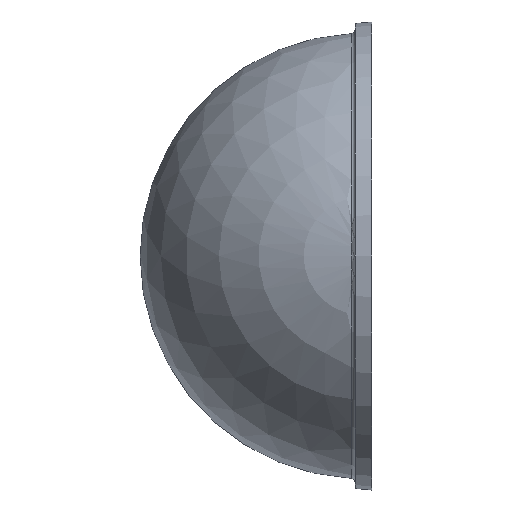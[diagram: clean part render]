
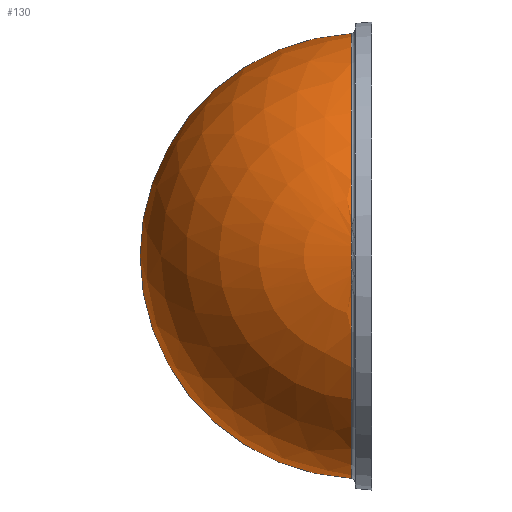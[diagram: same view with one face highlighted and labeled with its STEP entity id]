
A CAD part, left-side view. The second image highlights one B-rep face of the part: STEP entity #130.
In plain terms, the highlighted spherical face has radius 49.802 mm.
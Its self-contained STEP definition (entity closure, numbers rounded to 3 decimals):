
#1 = EDGE_CURVE ( 'NONE', #23, #45, #215, .T. ) ;
#16 = DIRECTION ( 'NONE',  ( 0., 1., 0. ) ) ;
#20 = ORIENTED_EDGE ( 'NONE', *, *, #1, .T. ) ;
#23 = VERTEX_POINT ( 'NONE', #58 ) ;
#28 = DIRECTION ( 'NONE',  ( 0., 0., 1. ) ) ;
#44 = DIRECTION ( 'NONE',  ( 0., 0., 1. ) ) ;
#45 = VERTEX_POINT ( 'NONE', #175 ) ;
#46 = AXIS2_PLACEMENT_3D ( 'NONE', #73, #16, #44 ) ;
#58 = CARTESIAN_POINT ( 'NONE',  ( 0., 4.603, 49.734 ) ) ;
#63 = DIRECTION ( 'NONE',  ( 0., 0., -1. ) ) ;
#65 = AXIS2_PLACEMENT_3D ( 'NONE', #222, #294, #286 ) ;
#73 = CARTESIAN_POINT ( 'NONE',  ( 0., 4.603, 0. ) ) ;
#124 = CARTESIAN_POINT ( 'NONE',  ( 0., 4.603, -49.734 ) ) ;
#125 = ORIENTED_EDGE ( 'NONE', *, *, #348, .F. ) ;
#130 = ADVANCED_FACE ( 'NONE', ( #310 ), #155, .T. ) ;
#155 = SPHERICAL_SURFACE ( 'NONE', #370, 49.802 ) ;
#164 = VERTEX_POINT ( 'NONE', #124 ) ;
#175 = CARTESIAN_POINT ( 'NONE',  ( 0., 51.802, 0. ) ) ;
#176 = CARTESIAN_POINT ( 'NONE',  ( 0., 2., 0. ) ) ;
#203 = CIRCLE ( 'NONE', #65, 49.802 ) ;
#215 = CIRCLE ( 'NONE', #237, 49.802 ) ;
#222 = CARTESIAN_POINT ( 'NONE',  ( 0., 2., 0. ) ) ;
#224 = EDGE_LOOP ( 'NONE', ( #353, #20, #125 ) ) ;
#237 = AXIS2_PLACEMENT_3D ( 'NONE', #176, #238, #28 ) ;
#238 = DIRECTION ( 'NONE',  ( -1., 0., 0. ) ) ;
#250 = CARTESIAN_POINT ( 'NONE',  ( 0., 2., 0. ) ) ;
#286 = DIRECTION ( 'NONE',  ( 0., 0., -1. ) ) ;
#294 = DIRECTION ( 'NONE',  ( 1., 0., 0. ) ) ;
#304 = CIRCLE ( 'NONE', #46, 49.734 ) ;
#310 = FACE_OUTER_BOUND ( 'NONE', #224, .T. ) ;
#340 = DIRECTION ( 'NONE',  ( -1., 0., 0. ) ) ;
#348 = EDGE_CURVE ( 'NONE', #164, #45, #203, .T. ) ;
#353 = ORIENTED_EDGE ( 'NONE', *, *, #380, .T. ) ;
#370 = AXIS2_PLACEMENT_3D ( 'NONE', #250, #340, #63 ) ;
#380 = EDGE_CURVE ( 'NONE', #164, #23, #304, .T. ) ;
